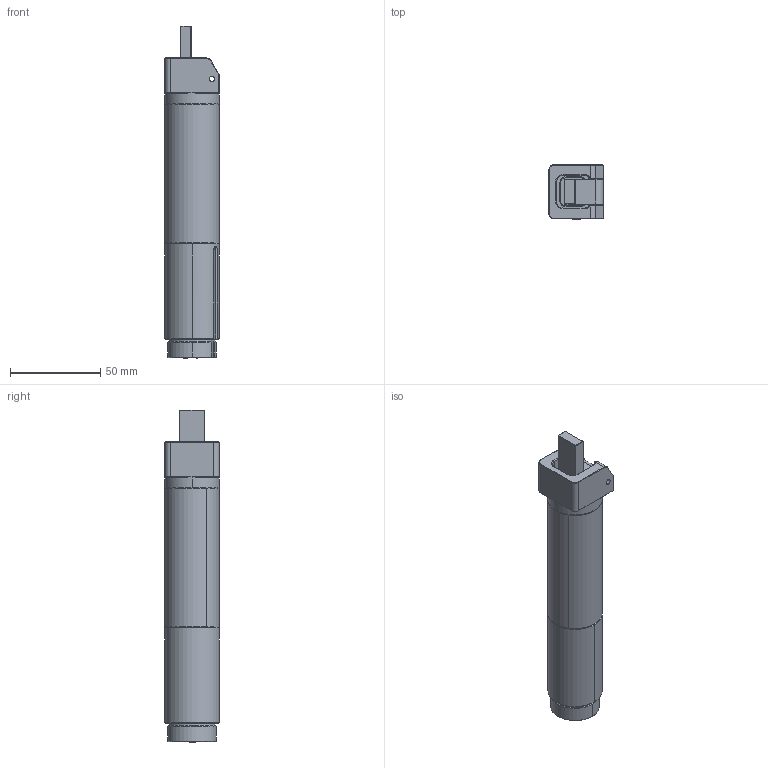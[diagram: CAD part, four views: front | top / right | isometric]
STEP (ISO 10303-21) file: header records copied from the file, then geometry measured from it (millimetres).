
FILE_DESCRIPTION (( 'STEP AP203' ), '1' );
FILE_NAME ('GFS30-90SG拨指装配.STEP', '2024-10-11T05:49:43', ( '微软用户' ), ( '微软中国' ), 'SwSTEP 2.0', 'SolidWorks 2018', '' );
FILE_SCHEMA (( 'CONFIG_CONTROL_DESIGN' ));
Length unit declared in the file: millimetre
Products named in the file (1): GFS30-90SG畢硌蚾饜
Bounding box: 30 x 30 x 183.7 mm (x, y, z)
Volume: 114783.9 mm3; surface area: 46594.7 mm2
Topology: 3 solids, 4 shells, 354 faces, 878 edges, 536 vertices
Faces by surface type: plane 128, cylinder 115, cone 67, bspline 44
Entity records: 21013 total; most frequent: CARTESIAN_POINT 12878, ORIENTED_EDGE 1744, DIRECTION 1599, EDGE_CURVE 872, AXIS2_PLACEMENT_3D 583, VERTEX_POINT 536, LINE 433, VECTOR 433
